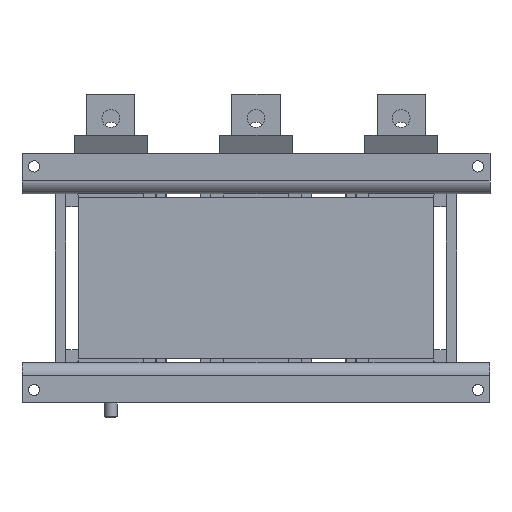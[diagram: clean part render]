
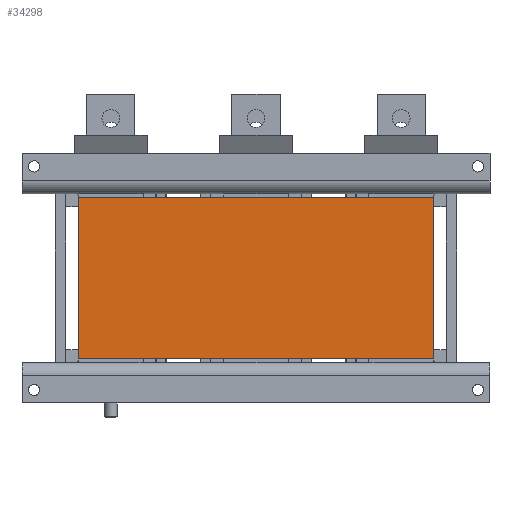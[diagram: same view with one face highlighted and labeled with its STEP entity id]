
A CAD part, front view. The second image highlights one B-rep face of the part: STEP entity #34298.
In plain terms, the highlighted planar face has unit normal (0, -1, 0).
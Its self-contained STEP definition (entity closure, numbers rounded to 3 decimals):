
#3077=FACE_OUTER_BOUND('',#5143,.T.);
#5143=EDGE_LOOP('',(#24178,#24179,#24180,#24181));
#7519=LINE('',#50228,#10853);
#7766=LINE('',#51132,#11100);
#7799=LINE('',#51190,#11133);
#7839=LINE('',#51314,#11173);
#10853=VECTOR('',#40644,10.);
#11100=VECTOR('',#41387,10.);
#11133=VECTOR('',#41424,10.);
#11173=VECTOR('',#41538,10.);
#14191=VERTEX_POINT('',#50225);
#14192=VERTEX_POINT('',#50227);
#14492=VERTEX_POINT('',#51129);
#14493=VERTEX_POINT('',#51131);
#17675=EDGE_CURVE('',#14192,#14191,#7519,.T.);
#18075=EDGE_CURVE('',#14492,#14493,#7766,.T.);
#18108=EDGE_CURVE('',#14192,#14492,#7799,.T.);
#18172=EDGE_CURVE('',#14493,#14191,#7839,.T.);
#24178=ORIENTED_EDGE('',*,*,#18075,.F.);
#24179=ORIENTED_EDGE('',*,*,#18108,.F.);
#24180=ORIENTED_EDGE('',*,*,#17675,.T.);
#24181=ORIENTED_EDGE('',*,*,#18172,.F.);
#31136=PLANE('',#36534);
#34298=ADVANCED_FACE('',(#3077),#31136,.T.);
#36534=AXIS2_PLACEMENT_3D('',#51319,#41546,#41547);
#40644=DIRECTION('',(0.,0.,1.));
#41387=DIRECTION('',(0.,0.,1.));
#41424=DIRECTION('',(-1.,0.,0.));
#41538=DIRECTION('',(1.,0.,0.));
#41546=DIRECTION('center_axis',(0.,-1.,0.));
#41547=DIRECTION('ref_axis',(1.,0.,0.));
#50225=CARTESIAN_POINT('',(110.,-135.57,50.));
#50227=CARTESIAN_POINT('',(110.,-135.57,-50.));
#50228=CARTESIAN_POINT('',(110.,-135.57,0.));
#51129=CARTESIAN_POINT('',(-110.,-135.57,-50.));
#51131=CARTESIAN_POINT('',(-110.,-135.57,50.));
#51132=CARTESIAN_POINT('',(-110.,-135.57,0.));
#51190=CARTESIAN_POINT('',(-110.,-135.57,-50.));
#51314=CARTESIAN_POINT('',(-110.,-135.57,50.));
#51319=CARTESIAN_POINT('Origin',(-110.,-135.57,0.));
